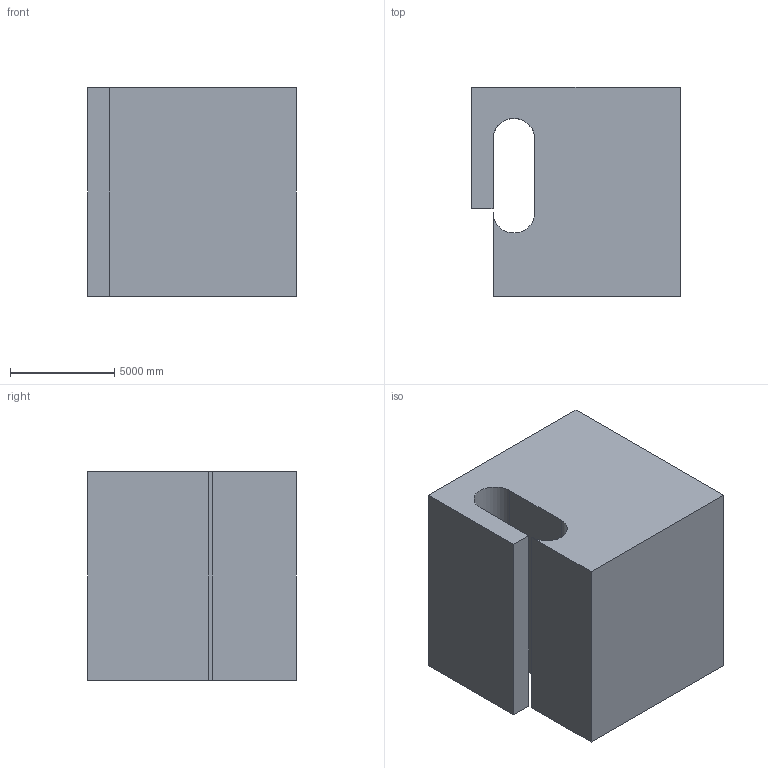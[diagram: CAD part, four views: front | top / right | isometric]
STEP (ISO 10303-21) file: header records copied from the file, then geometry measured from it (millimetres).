
FILE_DESCRIPTION (( 'STEP AP203' ), '1' );
FILE_NAME ('149.STEP', '2022-07-28T13:44:34', ( 'user' ), ( '' ), 'SwSTEP 2.0', 'SolidWorks 2021', '' );
FILE_SCHEMA (( 'CONFIG_CONTROL_DESIGN' ));
Length unit declared in the file: centimetre
Products named in the file (1): 149
Bounding box: 10000 x 10000 x 10000 mm (x, y, z)
Volume: 855312781704.4 mm3; surface area: 700221123.2 mm2
Topology: 1 solids, 1 shells, 12 faces, 30 edges, 20 vertices
Faces by surface type: plane 10, cylinder 2
Entity records: 435 total; most frequent: CARTESIAN_POINT 63, ORIENTED_EDGE 60, DIRECTION 60, EDGE_CURVE 30, VECTOR 26, LINE 26, VERTEX_POINT 20, AXIS2_PLACEMENT_3D 17
